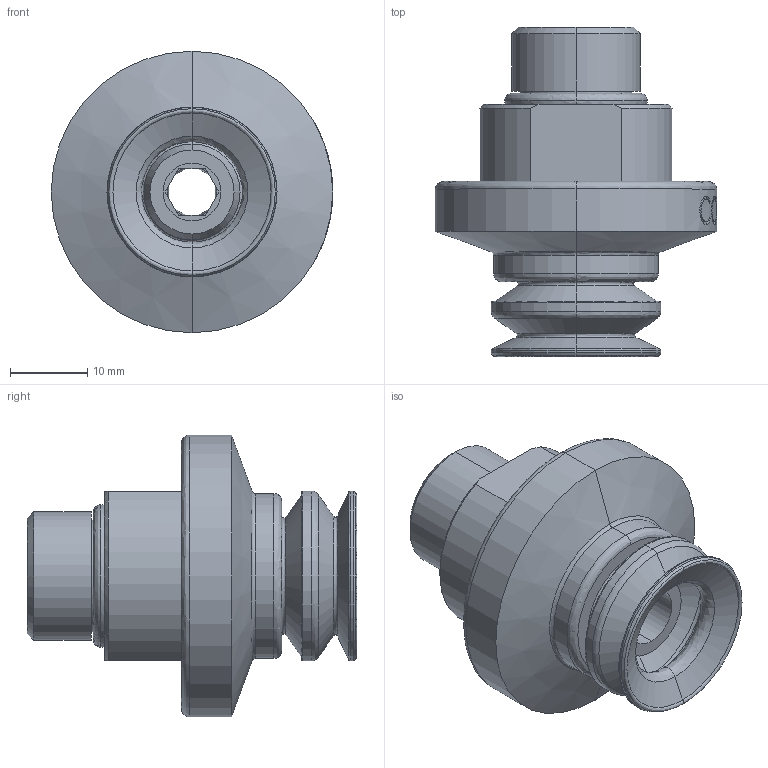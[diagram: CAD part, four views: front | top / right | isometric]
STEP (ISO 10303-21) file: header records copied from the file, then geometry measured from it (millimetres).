
FILE_DESCRIPTION (( 'STEP AP214' ), '1' );
FILE_NAME ('SAB-22-G3-8AG.STEP', '2023-03-07T01:08:52', ( 'Windows User' ), ( 'P R C' ), 'SwSTEP 2.0', 'SolidWorks 2019', '' );
FILE_SCHEMA (( 'AUTOMOTIVE_DESIGN' ));
Length unit declared in the file: millimetre
Products named in the file (1): SAB-22-G3-8AG
Bounding box: 36.5 x 42.74 x 36.5 mm (x, y, z)
Volume: 17083.4 mm3; surface area: 8837.4 mm2
Topology: 3 solids, 3 shells, 167 faces, 381 edges, 234 vertices
Faces by surface type: bspline 63, plane 41, cylinder 35, cone 28
Entity records: 11429 total; most frequent: CARTESIAN_POINT 6015, ORIENTED_EDGE 762, DIRECTION 675, EDGE_CURVE 381, AXIS2_PLACEMENT_3D 265, VERTEX_POINT 234, EDGE_LOOP 187, UNCERTAINTY_MEASURE_WITH_UNIT 172
